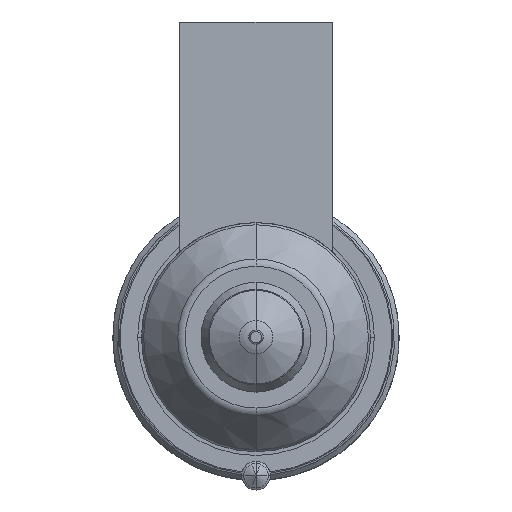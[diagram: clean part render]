
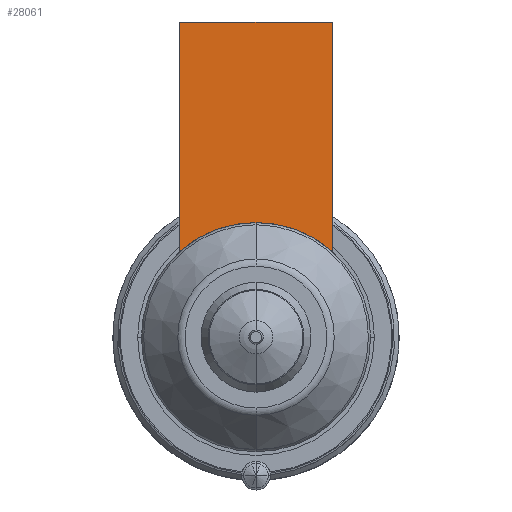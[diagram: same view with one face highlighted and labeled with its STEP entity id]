
A CAD part, front view. The second image highlights one B-rep face of the part: STEP entity #28061.
In plain terms, the highlighted planar face has unit normal (0, -1, 0).
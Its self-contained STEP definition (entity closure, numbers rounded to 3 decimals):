
#27149=DIRECTION('',(0.,0.,-1.));
#27150=VECTOR('',#27149,24.056);
#27151=CARTESIAN_POINT('',(-8.,-56.,33.));
#27152=LINE('',#27151,#27150);
#27189=DIRECTION('',(1.,0.,0.));
#27190=VECTOR('',#27189,16.);
#27191=CARTESIAN_POINT('',(-8.,-56.,33.));
#27192=LINE('',#27191,#27190);
#27196=CARTESIAN_POINT('',(0.,-56.,0.));
#27197=DIRECTION('',(0.,-1.,0.));
#27198=DIRECTION('',(0.667,0.,0.745));
#27199=AXIS2_PLACEMENT_3D('',#27196,#27197,#27198);
#27204=CARTESIAN_POINT('',(0.,-56.,0.));
#27205=DIRECTION('',(0.,-1.,0.));
#27206=DIRECTION('',(0.,0.,1.));
#27207=AXIS2_PLACEMENT_3D('',#27204,#27205,#27206);
#27240=DIRECTION('',(0.,0.,-1.));
#27241=VECTOR('',#27240,24.056);
#27242=CARTESIAN_POINT('',(8.,-56.,33.));
#27243=LINE('',#27242,#27241);
#27897=CARTESIAN_POINT('',(-8.,-56.,33.));
#27898=VERTEX_POINT('',#27897);
#27903=CARTESIAN_POINT('',(8.,-56.,33.));
#27904=VERTEX_POINT('',#27903);
#27907=CARTESIAN_POINT('',(-8.,-56.,8.944));
#27908=VERTEX_POINT('',#27907);
#27911=CARTESIAN_POINT('',(8.,-56.,8.944));
#27912=VERTEX_POINT('',#27911);
#27980=CARTESIAN_POINT('',(0.,-56.,12.));
#27981=VERTEX_POINT('',#27980);
#28046=CARTESIAN_POINT('',(-8.,-56.,33.));
#28047=DIRECTION('',(0.,-1.,0.));
#28048=DIRECTION('',(0.,0.,-1.));
#28049=AXIS2_PLACEMENT_3D('',#28046,#28047,#28048);
#28050=PLANE('',#28049);
#28051=ORIENTED_EDGE('',*,*,#27994,.F.);
#28053=ORIENTED_EDGE('',*,*,#28052,.T.);
#28055=ORIENTED_EDGE('',*,*,#28054,.T.);
#28057=ORIENTED_EDGE('',*,*,#28056,.T.);
#28058=ORIENTED_EDGE('',*,*,#28026,.T.);
#28059=EDGE_LOOP('',(#28051,#28053,#28055,#28057,#28058));
#28060=FACE_OUTER_BOUND('',#28059,.F.);
#28061=ADVANCED_FACE('',(#28060),#28050,.T.);
#27200=CIRCLE('',#27199,12.);
#27208=CIRCLE('',#27207,12.);
#27994=EDGE_CURVE('',#27898,#27908,#27152,.T.);
#28026=EDGE_CURVE('',#27981,#27908,#27208,.T.);
#28052=EDGE_CURVE('',#27898,#27904,#27192,.T.);
#28054=EDGE_CURVE('',#27904,#27912,#27243,.T.);
#28056=EDGE_CURVE('',#27912,#27981,#27200,.T.);
